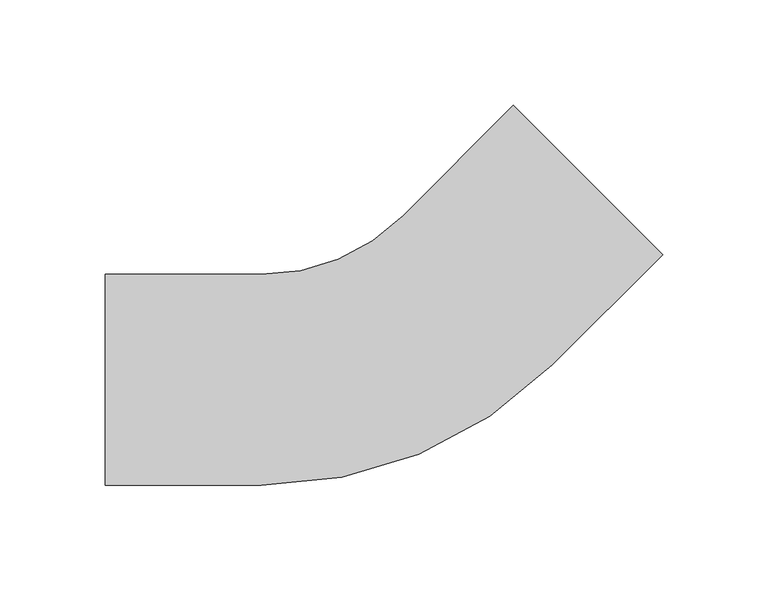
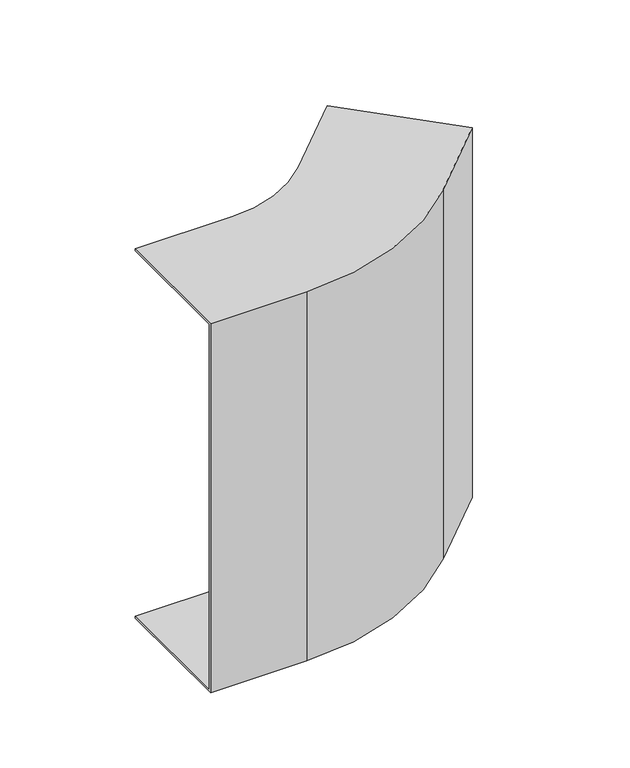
"""IFC4 building model written with IfcOpenShell, lengths in millimetres: cable carrier fitting geometry, BAKS_KK_Vertical bend EXTERNAL_LU : LUMNP_H100."""

from ifc_helpers import new_model, si_unit, frame, origin, place, context, project, spatial, polyline, circle_curve, source, transform, mapped, element, save
from ifc_brep_helpers import plane_surface, cylinder_surface, revolved_surface, advanced_brep


def cable_carrier_fitting_6f560506(model_context):
    return source(origin(), model_context, "Body", "AdvancedBrep", [
        advanced_brep(
        [(-134.0609665, 50.0, 150.0), (-134.0609665, 50.0, 148.5), (-134.0609665, -48.5, 148.5), (-134.0609665, -48.5, -148.5), (-134.0609665, 50.0, -148.5), (-134.0609665, 50.0, -150.0), (-134.0609665, -50.0, -150.0), (-134.0609665, -50.0, 150.0), (59.4400795, 130.1507576, 150.0), (130.1507576, 59.4400795, 150.0), (130.1507576, 59.4400795, -150.0), (59.4400795, 130.1507576, -150.0), (59.4400795, 130.1507576, -148.5), (129.0900974, 60.5007396, -148.5), (129.0900974, 60.5007396, 148.5), (59.4400795, 130.1507576, 148.5), (-60.0609665, -50.0, 150.0), (77.8248558, 7.1141777, 150.0), (7.1141777, 77.8248558, 150.0), (-60.0609665, 50.0, 150.0), (-60.0609665, -50.0, -150.0), (-60.0609665, 50.0, -150.0), (7.1141777, 77.8248558, -150.0), (77.8248558, 7.1141777, -150.0), (-60.0609665, 50.0, -148.5), (-60.0609665, -48.5, -148.5), (76.7641956, 8.1748378, -148.5), (7.1141777, 77.8248558, -148.5), (-60.0609665, -48.5, 148.5), (-60.0609665, 50.0, 148.5), (7.1141777, 77.8248558, 148.5), (76.7641956, 8.1748378, 148.5)],
        [
            (0, 1),
            (1, 2),
            (2, 3),
            (3, 4),
            (4, 5),
            (5, 6),
            (6, 7),
            (7, 0),
            (8, 9),
            (9, 10),
            (10, 11),
            (11, 12),
            (12, 13),
            (13, 14),
            (14, 15),
            (15, 8),
            (7, 16),
            (16, 17, circle_curve(frame((-60.0609665, 145.0, 150.0), z_axis=(0.0, 0.0, 1.0), x_axis=(0.0, -1.0, 0.0)), 195.0)),
            (17, 9),
            (8, 18),
            (18, 19, circle_curve(frame((-60.0609665, 145.0, 150.0), z_axis=(0.0, 0.0, -1.0), x_axis=(0.0, -1.0, 0.0)), 95.0)),
            (19, 0),
            (6, 20),
            (20, 16),
            (5, 21),
            (21, 22, circle_curve(frame((-60.0609665, 145.0, -150.0), z_axis=(0.0, 0.0, 1.0), x_axis=(0.0, -1.0, 0.0)), 95.0)),
            (22, 11),
            (10, 23),
            (23, 20, circle_curve(frame((-60.0609665, 145.0, -150.0), z_axis=(0.0, 0.0, -1.0), x_axis=(0.0, -1.0, 0.0)), 195.0)),
            (4, 24),
            (24, 21),
            (3, 25),
            (25, 26, circle_curve(frame((-60.0609665, 145.0, -148.5), z_axis=(0.0, 0.0, 1.0), x_axis=(0.0, -1.0, 0.0)), 193.5)),
            (26, 13),
            (12, 27),
            (27, 24, circle_curve(frame((-60.0609665, 145.0, -148.5), z_axis=(0.0, 0.0, -1.0), x_axis=(0.0, -1.0, 0.0)), 95.0)),
            (2, 28),
            (28, 25),
            (1, 29),
            (29, 30, circle_curve(frame((-60.0609665, 145.0, 148.5), z_axis=(0.0, 0.0, 1.0), x_axis=(0.0, -1.0, 0.0)), 95.0)),
            (30, 15),
            (14, 31),
            (31, 28, circle_curve(frame((-60.0609665, 145.0, 148.5), z_axis=(0.0, 0.0, -1.0), x_axis=(0.0, -1.0, 0.0)), 193.5)),
            (19, 29),
            (23, 17),
            (27, 22),
            (31, 26),
            (18, 30),
        ],
        [
            plane_surface(frame((-134.0609665, 0.0, 0.0), z_axis=(-1.0, 0.0, 0.0), x_axis=(0.0, 0.0, 1.0))),
            plane_surface(frame((94.7954185, 94.7954185, 0.0), z_axis=(0.7071067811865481, 0.7071067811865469, 0.0), x_axis=(0.0, 0.0, 1.0))),
            plane_surface(frame((-134.0609665, -50.0, 150.0), z_axis=(0.0, 0.0, 1.0), x_axis=(1.0, 0.0, 0.0))),
            plane_surface(frame((-134.0609665, -50.0, -150.0), z_axis=(0.0, -1.0, 0.0), x_axis=(1.0, 0.0, 0.0))),
            plane_surface(frame((-134.0609665, 50.0, -150.0), z_axis=(0.0, 0.0, -1.0), x_axis=(1.0, 0.0, 0.0))),
            plane_surface(frame((-134.0609665, 50.0, -148.5), z_axis=(0.0, 1.0, 0.0), x_axis=(1.0, 0.0, 0.0))),
            plane_surface(frame((-134.0609665, -48.5, -148.5), z_axis=(0.0, 0.0, 1.0), x_axis=(1.0, 0.0, 0.0))),
            plane_surface(frame((-134.0609665, -48.5, 148.5), z_axis=(0.0, 1.0, 0.0), x_axis=(1.0, 0.0, 0.0))),
            plane_surface(frame((-134.0609665, 50.0, 148.5), z_axis=(0.0, 0.0, -1.0), x_axis=(1.0, 0.0, 0.0))),
            plane_surface(frame((-134.0609665, 50.0, 150.0), z_axis=(0.0, 1.0, 0.0), x_axis=(1.0, 0.0, 0.0))),
            cylinder_surface(frame((-60.0609665, 145.0, 0.0), z_axis=(0.0, 0.0, 1.0), x_axis=(0.0, -1.0, 0.0)), 195.0),
            revolved_surface(polyline([(-60.0609665, 50.0, -148.5), (-60.0609665, 50.0, -150.0)]), (-60.0609665, 145.0, 0.0), (0.0, 0.0, 1.0)),
            revolved_surface(polyline([(-60.0609665, -48.5, 148.5), (-60.0609665, -48.5, -148.5)]), (-60.0609665, 145.0, 0.0), (0.0, 0.0, 1.0)),
            revolved_surface(polyline([(-60.0609665, 50.0, 150.0), (-60.0609665, 50.0, 148.5)]), (-60.0609665, 145.0, 0.0), (0.0, 0.0, 1.0)),
            plane_surface(frame((77.8248558, 7.1141777, -150.0), z_axis=(0.7071067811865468, -0.7071067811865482, 0.0), x_axis=(0.7071067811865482, 0.7071067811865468, 0.0))),
            plane_surface(frame((7.1141777, 77.8248558, -148.5), z_axis=(-0.7071067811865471, 0.7071067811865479, 0.0), x_axis=(0.7071067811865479, 0.7071067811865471, 0.0))),
            plane_surface(frame((76.7641956, 8.1748378, 148.5), z_axis=(-0.7071067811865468, 0.7071067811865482, 0.0), x_axis=(0.7071067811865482, 0.7071067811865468, 0.0))),
            plane_surface(frame((7.1141777, 77.8248558, 150.0), z_axis=(-0.7071067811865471, 0.7071067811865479, 0.0), x_axis=(0.7071067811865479, 0.7071067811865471, 0.0))),
        ],
        [
            (0, [[1, 2, 3, 4, 5, 6, 7, 8]]),
            (1, [[9, 10, 11, 12, 13, 14, 15, 16]]),
            (2, [[-8, 17, 18, 19, -9, 20, 21, 22]]),
            (3, [[-7, 23, 24, -17]]),
            (4, [[-6, 25, 26, 27, -11, 28, 29, -23]]),
            (5, [[-5, 30, 31, -25]]),
            (6, [[-4, 32, 33, 34, -13, 35, 36, -30]]),
            (7, [[-3, 37, 38, -32]]),
            (8, [[-2, 39, 40, 41, -15, 42, 43, -37]]),
            (9, [[-1, -22, 44, -39]]),
            (10, [[-18, -24, -29, 45]]),
            (11, [[-26, -31, -36, 46]]),
            (12, [[-33, -38, -43, 47]]),
            (13, [[-40, -44, -21, 48]]),
            (14, [[-45, -28, -10, -19]]),
            (15, [[-46, -35, -12, -27]]),
            (16, [[-47, -42, -14, -34]]),
            (17, [[-48, -20, -16, -41]]),
        ],
    ),
    ])


if __name__ == "__main__":
    model = new_model("IFC4")
    model_context = context("Model", 3, world=origin())
    ifc_project = project(units=[si_unit("LENGTHUNIT", "METRE", prefix="MILLI")], contexts=[model_context])
    site = spatial("IfcSite", under=ifc_project)
    building = spatial("IfcBuilding", under=site)
    placement = place(None, origin())
    cable_carrier_fitting_shape = cable_carrier_fitting_6f560506(model_context)
    element("IfcCableCarrierFitting", 1, ObjectType="BAKS_KK_Vertical bend EXTERNAL_LU : LUMNP_H100", at=placement, inside=building, context=model_context, shape_type="MappedRepresentation", body=[
        mapped(cable_carrier_fitting_shape, transform((0.0, 0.0, 0.0), x_axis=(1.0, 0.0, 0.0), y_axis=(0.0, 1.0, 0.0), z_axis=(0.0, 0.0, 1.0))),
    ])
    save(model, "model.ifc")
